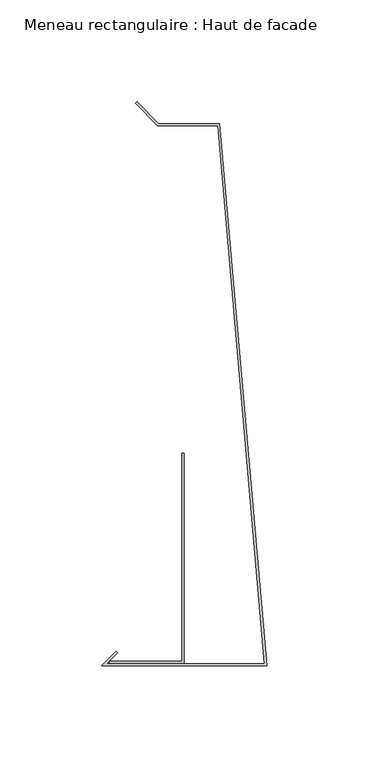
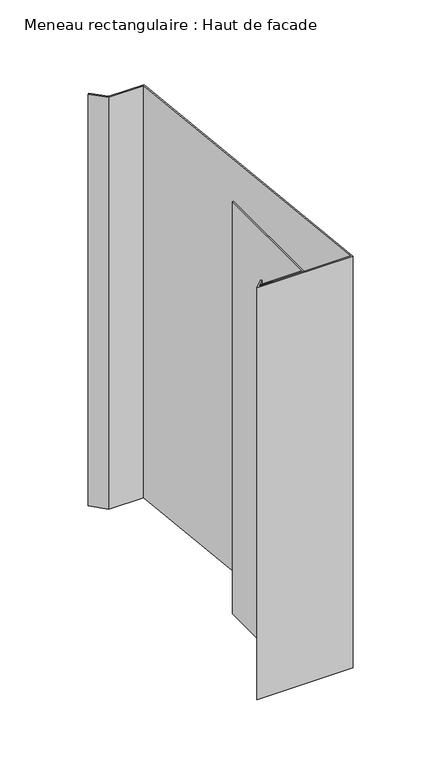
"""IFC4 building model written with IfcOpenShell, lengths in millimetres: member geometry, Meneau rectangulaire : Haut de facade."""

from ifc_helpers import new_model, si_unit, frame, origin, place, context, project, spatial, polyline, outline, extrude, source, transform, mapped, element, save


def meneau_rectangulaire_haut_de_facade_5fdc1807(model_context):
    return source(origin(), model_context, "Body", "SweptSolid", [
        extrude(outline(polyline([(-24.0647895, 160.703755), (-53.5626719, 160.703755), (-64.4621669, 171.6032499), (-63.7550601, 172.3103567), (-53.1484584, 161.703755), (-23.1484584, 161.703755), (0.0, -104.2), (-81.0, -104.2), (-73.9289322, -97.1289322), (-73.2218254, -97.836039), (-78.5857864, -103.2), (-1.0913085, -103.2), (-24.0647895, 160.703755)])), frame((0.0, 0.0, -368.0), z_axis=(0.0, 0.0, 1.0), x_axis=(1.0, 0.0, 0.0)), (0.0, 0.0, 1.0), 368.0),
        extrude(outline(polyline([(-40.5477541, -102.9846816), (-77.0752814, -102.9846816), (-77.0752814, -101.9846816), (-41.5477541, -101.9846816), (-41.5477541, -0.0384227), (-40.5477541, -0.0384227), (-40.5477541, -102.9846816)])), frame((0.0, 0.0, -368.0), z_axis=(0.0, 0.0, 1.0), x_axis=(1.0, 0.0, 0.0)), (0.0, 0.0, 1.0), 368.0),
    ])


if __name__ == "__main__":
    model = new_model("IFC4")
    model_context = context("Model", 3, world=origin())
    ifc_project = project(units=[si_unit("LENGTHUNIT", "METRE", prefix="MILLI")], contexts=[model_context])
    site = spatial("IfcSite", under=ifc_project)
    building = spatial("IfcBuilding", under=site)
    placement = place(None, origin())
    meneau_rectangulaire_haut_de_facade_shape = meneau_rectangulaire_haut_de_facade_5fdc1807(model_context)
    element("IfcMember", 1, ObjectType="Meneau rectangulaire : Haut de facade", at=placement, inside=building, context=model_context, shape_type="MappedRepresentation", body=[
        mapped(meneau_rectangulaire_haut_de_facade_shape, transform((0.0, 0.0, 0.0), x_axis=(1.0, 0.0, 0.0), y_axis=(0.0, 1.0, 0.0), z_axis=(0.0, 0.0, 1.0))),
    ])
    save(model, "model.ifc")
